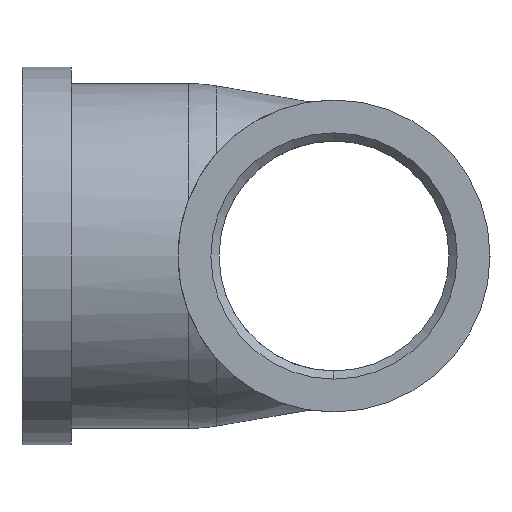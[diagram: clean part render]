
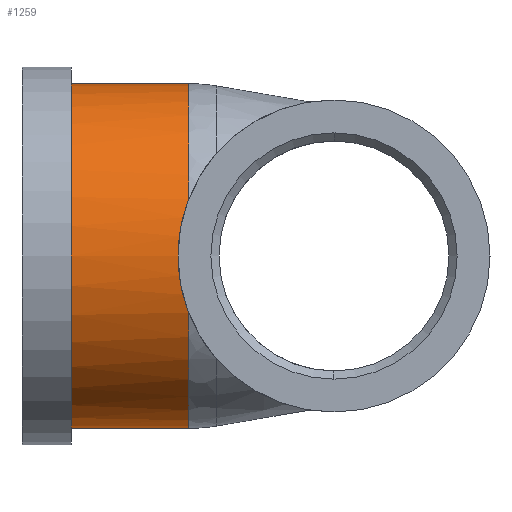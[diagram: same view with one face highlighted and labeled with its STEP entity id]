
A CAD part, left-side view. The second image highlights one B-rep face of the part: STEP entity #1259.
In plain terms, the highlighted cylindrical face has radius 10.5 mm (diameter 21 mm), a partial arc.
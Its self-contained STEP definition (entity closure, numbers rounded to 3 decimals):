
#456 = CARTESIAN_POINT ( 'NONE',  ( 0., 16., 10.5 ) ) ;
#522 = DIRECTION ( 'NONE',  ( 0., 1., 0. ) ) ;
#523 = VECTOR ( 'NONE', #522, 1000. ) ;
#524 = CARTESIAN_POINT ( 'NONE',  ( 0., 52.839, 10.5 ) ) ;
#525 = LINE ( 'NONE', #524, #523 ) ;
#755 = CARTESIAN_POINT ( 'NONE',  ( 0., 16., -10.5 ) ) ;
#756 = DIRECTION ( 'NONE',  ( 0., 1., 0. ) ) ;
#757 = VECTOR ( 'NONE', #756, 1000. ) ;
#758 = CARTESIAN_POINT ( 'NONE',  ( 0., 52.839, -10.5 ) ) ;
#759 = LINE ( 'NONE', #758, #757 ) ;
#872 = VERTEX_POINT ( 'NONE', #1740 ) ;
#874 = EDGE_CURVE ( 'NONE', #1054, #872, #1733, .T. ) ;
#1038 = VERTEX_POINT ( 'NONE', #2182 ) ;
#1052 = EDGE_CURVE ( 'NONE', #1053, #1054, #2209, .T. ) ;
#1053 = VERTEX_POINT ( 'NONE', #2204 ) ;
#1054 = VERTEX_POINT ( 'NONE', #2203 ) ;
#1259 = ADVANCED_FACE ( 'NONE', ( #2825 ), #2824, .T. ) ;
#1260 = EDGE_LOOP ( 'NONE', ( #1315, #1316, #1317, #1318, #1320, #1321 ) ) ;
#1315 = ORIENTED_EDGE ( 'NONE', *, *, #1543, .F. ) ;
#1316 = ORIENTED_EDGE ( 'NONE', *, *, #1052, .T. ) ;
#1317 = ORIENTED_EDGE ( 'NONE', *, *, #874, .T. ) ;
#1318 = ORIENTED_EDGE ( 'NONE', *, *, #1319, .T. ) ;
#1319 = EDGE_CURVE ( 'NONE', #872, #1038, #2935, .T. ) ;
#1320 = ORIENTED_EDGE ( 'NONE', *, *, #1463, .T. ) ;
#1321 = ORIENTED_EDGE ( 'NONE', *, *, #1332, .F. ) ;
#1332 = EDGE_CURVE ( 'NONE', #1544, #1461, #2916, .T. ) ;
#1461 = VERTEX_POINT ( 'NONE', #456 ) ;
#1463 = EDGE_CURVE ( 'NONE', #1038, #1461, #525, .T. ) ;
#1543 = EDGE_CURVE ( 'NONE', #1053, #1544, #759, .T. ) ;
#1544 = VERTEX_POINT ( 'NONE', #755 ) ;
#1718 = CARTESIAN_POINT ( 'NONE',  ( -10.298, 9.277, 2.068 ) ) ;
#1719 = CARTESIAN_POINT ( 'NONE',  ( -10.398, 9.387, 1.488 ) ) ;
#1720 = CARTESIAN_POINT ( 'NONE',  ( -10.437, 9.43, 1.191 ) ) ;
#1721 = CARTESIAN_POINT ( 'NONE',  ( -10.488, 9.486, 0.592 ) ) ;
#1722 = CARTESIAN_POINT ( 'NONE',  ( -10.5, 9.5, 0.293 ) ) ;
#1723 = CARTESIAN_POINT ( 'NONE',  ( -10.5, 9.5, -0.303 ) ) ;
#1724 = CARTESIAN_POINT ( 'NONE',  ( -10.487, 9.486, -0.601 ) ) ;
#1725 = CARTESIAN_POINT ( 'NONE',  ( -10.436, 9.429, -1.194 ) ) ;
#1726 = CARTESIAN_POINT ( 'NONE',  ( -10.398, 9.387, -1.491 ) ) ;
#1727 = CARTESIAN_POINT ( 'NONE',  ( -10.247, 9.219, -2.368 ) ) ;
#1728 = CARTESIAN_POINT ( 'NONE',  ( -10.1, 9.057, -2.924 ) ) ;
#1729 = CARTESIAN_POINT ( 'NONE',  ( -9.915, 8.85, -3.455 ) ) ;
#1733 = B_SPLINE_CURVE_WITH_KNOTS ( 'NONE', 3,
 ( #1729, #1728, #1727, #1726, #1725, #1724, #1723, #1722, #1721, #1720, #1719, #1718, #1773, #1772, #1771, #1770 ),
 .UNSPECIFIED., .F., .F.,
 ( 4, 2, 2, 2, 2, 2, 2, 4 ),
 ( 0.045, 0.047, 0.048, 0.049, 0.05, 0.051, 0.051, 0.052 ),
 .UNSPECIFIED. ) ;
#1740 = CARTESIAN_POINT ( 'NONE',  ( -9.915, 8.85, 3.455 ) ) ;
#1770 = CARTESIAN_POINT ( 'NONE',  ( -9.915, 8.85, 3.455 ) ) ;
#1771 = CARTESIAN_POINT ( 'NONE',  ( -10.009, 8.954, 3.187 ) ) ;
#1772 = CARTESIAN_POINT ( 'NONE',  ( -10.092, 9.047, 2.912 ) ) ;
#1773 = CARTESIAN_POINT ( 'NONE',  ( -10.237, 9.209, 2.353 ) ) ;
#2182 = CARTESIAN_POINT ( 'NONE',  ( 0., 8.85, 10.5 ) ) ;
#2203 = CARTESIAN_POINT ( 'NONE',  ( -9.915, 8.85, -3.455 ) ) ;
#2204 = CARTESIAN_POINT ( 'NONE',  ( 0., 8.85, -10.5 ) ) ;
#2205 = DIRECTION ( 'NONE',  ( 0., 0., -1. ) ) ;
#2206 = DIRECTION ( 'NONE',  ( 0., 1., 0. ) ) ;
#2207 = CARTESIAN_POINT ( 'NONE',  ( 0., 8.85, 0. ) ) ;
#2208 = AXIS2_PLACEMENT_3D ( 'NONE', #2207, #2206, #2205 ) ;
#2209 = CIRCLE ( 'NONE', #2208, 10.5 ) ;
#2819 = DIRECTION ( 'NONE',  ( 0., 0., 1. ) ) ;
#2820 = DIRECTION ( 'NONE',  ( 0., 1., 0. ) ) ;
#2821 = CARTESIAN_POINT ( 'NONE',  ( 0., 52.839, 0. ) ) ;
#2822 = AXIS2_PLACEMENT_3D ( 'NONE', #2821, #2820, #2819 ) ;
#2824 = CYLINDRICAL_SURFACE ( 'NONE', #2822, 10.5 ) ;
#2825 = FACE_OUTER_BOUND ( 'NONE', #1260, .T. ) ;
#2909 = DIRECTION ( 'NONE',  ( 0., 0., 1. ) ) ;
#2910 = DIRECTION ( 'NONE',  ( 0., 1., 0. ) ) ;
#2911 = CARTESIAN_POINT ( 'NONE',  ( 0., 16., 0. ) ) ;
#2912 = AXIS2_PLACEMENT_3D ( 'NONE', #2911, #2910, #2909 ) ;
#2916 = CIRCLE ( 'NONE', #2912, 10.5 ) ;
#2927 = DIRECTION ( 'NONE',  ( 0., 0., -1. ) ) ;
#2928 = DIRECTION ( 'NONE',  ( 0., 1., 0. ) ) ;
#2929 = CARTESIAN_POINT ( 'NONE',  ( 0., 8.85, 0. ) ) ;
#2930 = AXIS2_PLACEMENT_3D ( 'NONE', #2929, #2928, #2927 ) ;
#2935 = CIRCLE ( 'NONE', #2930, 10.5 ) ;
